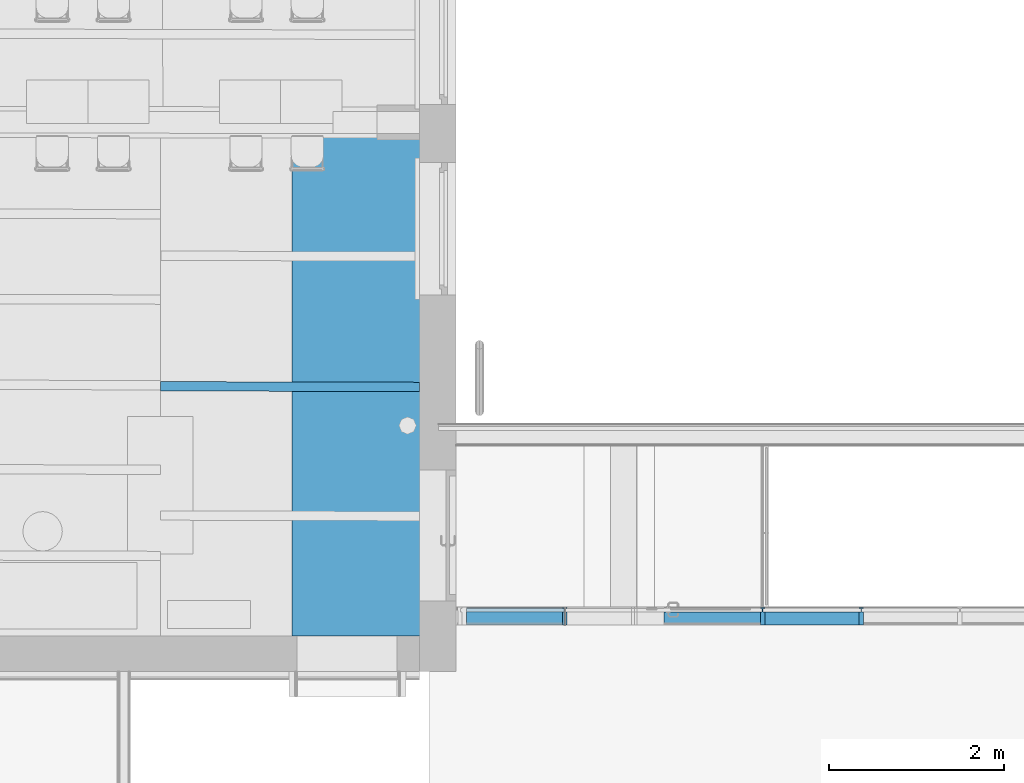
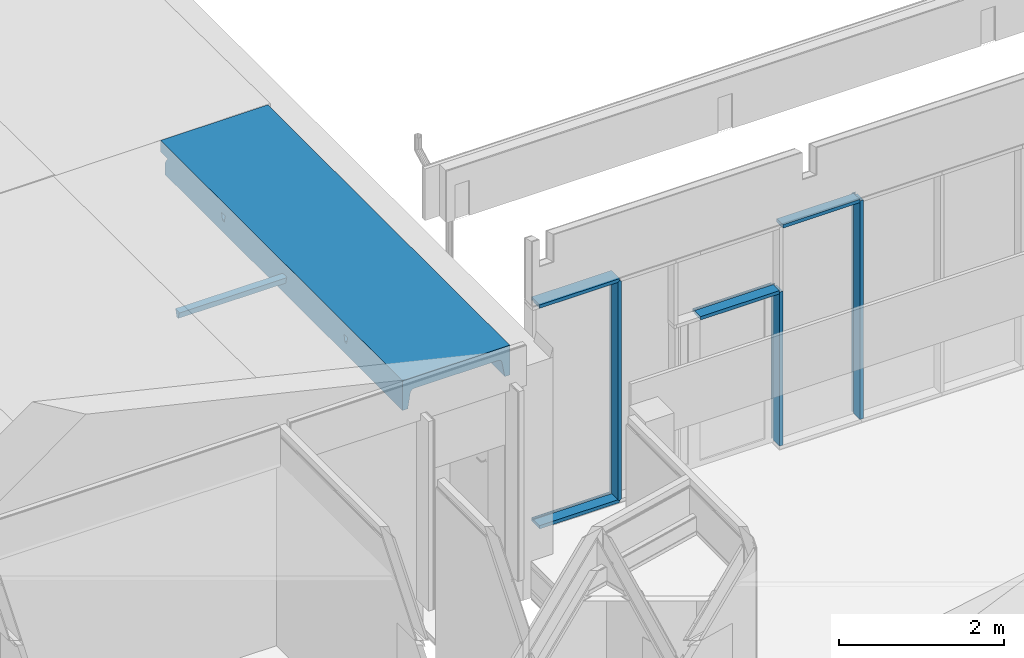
# One storey, part 28 of 153: 7 members, 2 beams, 1 element without a shape of its own.
"""IFC2X3 building model written with IfcOpenShell, lengths in millimetres."""

from ifc_helpers import new_model, entity, si_unit, converted_unit, derived_unit, money_unit, direction, frame, origin_with_axes, place, context, subcontext, project, spatial, faceted_brep, material, type_object, element, aggregate, save


model = new_model("IFC2X3")

# Units and contexts
model_context = context("Model", 3, precision=0.01, world=origin_with_axes(), true_north=direction((0.0, 1.0)))
body_context = subcontext(model_context, "Body", "Model", "MODEL_VIEW")
ifc_project = project(units=[si_unit("LENGTHUNIT", "METRE", prefix="MILLI"), si_unit("AREAUNIT", "SQUARE_METRE"), si_unit("VOLUMEUNIT", "CUBIC_METRE"), converted_unit("PLANEANGLEUNIT", "DEGREE", entity("IfcPlaneAngleMeasure", 0.0174532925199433), si_unit("PLANEANGLEUNIT", "RADIAN"), dimensions=[0, 0, 0, 0, 0, 0, 0]), money_unit("EUR"), converted_unit("TIMEUNIT", "Year", entity("IfcTimeMeasure", 31557600.0), si_unit("TIMEUNIT", "SECOND"), dimensions=[0, 0, 1, 0, 0, 0, 0]), si_unit("MASSUNIT", "GRAM", prefix="KILO"), si_unit("THERMODYNAMICTEMPERATUREUNIT", "DEGREE_CELSIUS"), si_unit("LUMINOUSINTENSITYUNIT", "LUMEN"), si_unit("ENERGYUNIT", "JOULE", prefix="MEGA"), derived_unit("THERMALCONDUCTANCEUNIT", [(si_unit("POWERUNIT", "WATT"), 1), (si_unit("LENGTHUNIT", "METRE"), -1), (si_unit("THERMODYNAMICTEMPERATUREUNIT", "KELVIN"), -1)]), derived_unit("SPECIFICHEATCAPACITYUNIT", [(si_unit("ENERGYUNIT", "JOULE"), 1), (si_unit("MASSUNIT", "GRAM", prefix="KILO"), -1), (si_unit("THERMODYNAMICTEMPERATUREUNIT", "KELVIN"), -1)]), derived_unit("MASSDENSITYUNIT", [(si_unit("MASSUNIT", "GRAM", prefix="KILO"), 1), (si_unit("VOLUMEUNIT", "CUBIC_METRE"), -1)])], contexts=[model_context])

# Site, building, storey
site_placement = place(None, frame((0.0, 0.0, 8650.0), z_axis=(0.0, 0.0, 1.0), x_axis=(1.0, 0.0, 0.0)))
site = spatial("IfcSite", under=ifc_project, at=site_placement, Name="43301:001:0844", CompositionType="ELEMENT")
building_placement = place(site_placement, origin_with_axes())
building = spatial("IfcBuilding", under=site, at=building_placement, Name="Kuressaare Ametikooli tuulikute mehaanikute õppekorpus", CompositionType="ELEMENT")
storey_placement = place(building_placement, frame((0.0, 0.0, 4100.0), z_axis=(0.0, 0.0, 1.0), x_axis=(1.0, 0.0, 0.0)))
storey = spatial("IfcBuildingStorey", under=building, at=storey_placement, Name="2.korrus", CompositionType="ELEMENT", Elevation=4100.0)

# Curtain wall, members
curtain_wall_type = type_object("IfcCurtainWallType", Name="Curtain Wall Type", PredefinedType="NOTDEFINED")
curtain_wall_placement = place(storey_placement, frame((107592.1026822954, 26479.57374875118, 34.9999663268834), z_axis=(0.0, 0.0, 1.0), x_axis=(1.0, 0.0, 0.0)))
curtain_wall = element("IfcCurtainWall", 1, at=curtain_wall_placement, inside=storey, type_object=curtain_wall_type, Name="SKF-2.1,EI60")
ifc_material_1 = material(Name="Aluminium")
member_type_1 = type_object("IfcMemberType", Name="Boundary Frame 50 x 200", PredefinedType="NOTDEFINED")
member_1_placement = place(curtain_wall_placement, frame((-2705.896576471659, 0.0, 0.0), z_axis=(0.0, 0.0, 1.0), x_axis=(-1.0, 0.0, 0.0)))
member_1 = element("IfcMember", 2, at=member_1_placement, type_object=member_type_1, material=ifc_material_1, context=body_context, shape_type="Brep", body=[
    faceted_brep([(-4.999999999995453, 19.99999999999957, 3255.000041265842), (-4.999999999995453, -19.99999999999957, 3255.000041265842), (-25.00000000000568, -19.99999999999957, 3235.000316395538), (-25.00000000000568, -30.00000000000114, 3235.000316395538), (0.0, -30.00000000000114, 3259.999972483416), (0.0, 170.0000000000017, 3259.999972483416), (-25.00000000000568, 170.0000000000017, 3235.000316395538), (-25.00000000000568, 19.99999999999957, 3235.000316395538), (-4.999999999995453, 19.99999999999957, 4.999999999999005), (-4.999999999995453, -19.99999999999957, 4.999999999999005), (-25.00000000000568, -19.99999999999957, 25.00000000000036), (-25.00000000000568, -30.00000000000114, 25.00000000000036), (0.0, -30.00000000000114, 0.0), (25.00000000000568, -30.00000000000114, 25.00000000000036), (25.00000000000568, -30.00000000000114, 3234.999974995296), (25.00000000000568, -19.99999999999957, 3234.999974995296), (4.999999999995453, -19.99999999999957, 3254.999972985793), (4.999999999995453, 19.99999999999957, 3254.999972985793), (25.00000000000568, 19.99999999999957, 3234.999974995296), (25.00000000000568, 170.0000000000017, 3234.999974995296), (0.0, 170.0000000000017, 0.0), (-25.00000000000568, 170.0000000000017, 25.00000000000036), (25.00000000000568, 170.0000000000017, 25.00000000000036), (-25.00000000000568, 19.99999999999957, 25.00000000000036), (25.00000000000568, 19.99999999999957, 25.00000000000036), (4.999999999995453, 19.99999999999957, 4.999999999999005), (4.999999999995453, -19.99999999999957, 4.999999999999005), (25.00000000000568, -19.99999999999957, 25.00000000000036)], [[[0, 1, 2, 3, 4, 5, 6, 7]], [[0, 8, 9, 1]], [[1, 9, 10, 2]], [[10, 11, 3, 2]], [[12, 13, 14, 4, 3, 11]], [[5, 4, 14, 15, 16, 17, 18, 19]], [[20, 21, 6, 5, 19, 22]], [[7, 6, 21, 23]], [[7, 23, 8, 0]], [[9, 8, 23, 21, 20, 12, 11, 10]], [[13, 12, 20, 22, 24, 25, 26, 27]], [[27, 15, 14, 13]], [[15, 27, 26, 16]], [[17, 16, 26, 25]], [[18, 17, 25, 24]], [[18, 24, 22, 19]]]),
])
member_2_placement = place(curtain_wall_placement, frame((-1574.999999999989, 0.0, 2300.000005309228), z_axis=(1.0, 0.0, 1.248303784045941e-08), x_axis=(-1.248303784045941e-08, 0.0, 1.0)))
member_2 = element("IfcMember", 3, at=member_2_placement, type_object=member_type_1, material=ifc_material_1, context=body_context, shape_type="Brep", body=[
    faceted_brep([(-5.000013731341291, 19.99999999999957, 1099.999981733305), (-5.000013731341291, -19.99999999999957, 1099.999981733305), (-25.00001373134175, -19.99999999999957, 1099.999981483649), (-25.00001373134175, -30.00000000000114, 1099.999981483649), (24.99998626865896, -30.00000000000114, 1099.999982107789), (24.99998626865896, -19.99999999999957, 1099.999982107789), (4.999986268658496, -19.99999999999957, 1099.999981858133), (4.999986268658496, 19.99999999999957, 1099.999981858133), (24.99998626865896, 19.99999999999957, 1099.999982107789), (24.99998626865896, 170.0000000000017, 1099.999982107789), (-25.00001373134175, 170.0000000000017, 1099.999981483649), (-25.00001373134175, 19.99999999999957, 1099.999981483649), (-4.999999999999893, 19.99999999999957, -3.744844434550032e-07), (-4.999999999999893, -19.99999999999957, -3.744844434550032e-07), (-25.00000000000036, -19.99999999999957, -6.24140739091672e-07), (-25.00000000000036, -30.00000000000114, -6.24140739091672e-07), (25.00000000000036, -30.00000000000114, 0.0), (25.00000000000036, -19.99999999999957, 0.0), (4.999999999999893, -19.99999999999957, -2.496562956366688e-07), (4.999999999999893, 19.99999999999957, -2.496562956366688e-07), (25.00000000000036, 19.99999999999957, 0.0), (25.00000000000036, 170.0000000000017, 0.0), (-25.00000000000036, 170.0000000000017, -6.24140739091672e-07), (-25.00000000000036, 19.99999999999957, -6.24140739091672e-07)], [[[0, 1, 2, 3, 4, 5, 6, 7, 8, 9, 10, 11]], [[0, 12, 13, 1]], [[1, 13, 14, 2]], [[14, 15, 3, 2]], [[3, 15, 16, 4]], [[17, 5, 4, 16]], [[5, 17, 18, 6]], [[7, 6, 18, 19]], [[8, 7, 19, 20]], [[8, 20, 21, 9]], [[9, 21, 22, 10]], [[11, 10, 22, 23]], [[11, 23, 12, 0]], [[13, 12, 23, 22, 21, 20, 19, 18, 17, 16, 15, 14]]]),
])
member_3_placement = place(curtain_wall_placement, frame((-3824.999999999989, 0.0, 0.0), z_axis=(1.0, 0.0, 0.0), x_axis=(0.0, 0.0, 1.0)))
member_3 = element("IfcMember", 4, at=member_3_placement, type_object=member_type_1, material=ifc_material_1, context=body_context, shape_type="Brep", body=[
    faceted_brep([(4.999999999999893, 19.99999999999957, 1114.103423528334), (25.00000000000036, 19.99999999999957, 1094.103423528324), (25.00000000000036, 170.0000000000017, 1094.103423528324), (0.0, 170.0000000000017, 1119.10342352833), (0.0, -30.00000000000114, 1119.10342352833), (25.00000000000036, -30.00000000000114, 1094.103423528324), (25.00000000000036, -19.99999999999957, 1094.103423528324), (4.999999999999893, -19.99999999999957, 1114.103423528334), (4.999999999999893, 19.99999999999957, 0.0), (25.00000000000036, 19.99999999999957, 0.0), (25.00000000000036, 170.0000000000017, 0.0), (-25.00000000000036, 170.0000000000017, 1119.10342352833), (-25.00000000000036, 170.0000000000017, 0.0), (-25.00000000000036, -30.00000000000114, 1119.10342352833), (25.00000000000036, -30.00000000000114, 0.0), (-25.00000000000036, -30.00000000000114, 0.0), (25.00000000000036, -19.99999999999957, 0.0), (4.999999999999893, -19.99999999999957, 0.0)], [[[0, 1, 2, 3, 4, 5, 6, 7]], [[0, 8, 9, 1]], [[9, 10, 2, 1]], [[11, 3, 2, 10, 12]], [[4, 3, 11, 13]], [[14, 5, 4, 13, 15]], [[6, 5, 14, 16]], [[16, 17, 7, 6]], [[7, 17, 8, 0]], [[8, 17, 16, 14, 15, 12, 10, 9]], [[11, 12, 15, 13]]]),
])
member_4_placement = place(curtain_wall_placement, frame((-2705.896576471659, 0.0, 3259.999972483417), z_axis=(-0.999999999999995, 0.0, 1.004751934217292e-07), x_axis=(-1.004751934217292e-07, 0.0, -0.999999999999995)))
member_4 = element("IfcMember", 5, at=member_4_placement, type_object=member_type_1, material=ifc_material_1, context=body_context, shape_type="Brep", body=[
    faceted_brep([(5.000112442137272, 19.99999999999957, 1119.103467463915), (25.00011244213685, 19.99999999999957, 1119.103465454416), (25.00011244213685, 170.0000000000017, 1119.103465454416), (-24.99988755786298, 170.0000000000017, 1119.103470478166), (-24.99988755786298, -30.00000000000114, 1119.103470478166), (25.00011244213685, -30.00000000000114, 1119.103465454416), (25.00011244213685, -19.99999999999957, 1119.103465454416), (5.000112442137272, -19.99999999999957, 1119.103467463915), (5.000000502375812, 19.99999999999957, 4.999998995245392), (25.00000251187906, 19.99999999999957, 24.99999497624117), (25.00000251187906, 170.0000000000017, 24.99999497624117), (0.0, 170.0000000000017, 0.0), (-25.00000000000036, 170.0000000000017, 2.511868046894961e-06), (-25.00000000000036, -30.00000000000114, 2.511868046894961e-06), (0.0, -30.00000000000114, 0.0), (25.00000251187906, -30.00000000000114, 24.99999497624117), (25.00000251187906, -19.99999999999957, 24.99999497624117), (5.000000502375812, -19.99999999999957, 4.999998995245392)], [[[0, 1, 2, 3, 4, 5, 6, 7]], [[0, 8, 9, 1]], [[9, 10, 2, 1]], [[2, 10, 11, 12, 3]], [[3, 12, 13, 4]], [[13, 14, 15, 5, 4]], [[6, 5, 15, 16]], [[16, 17, 7, 6]], [[7, 17, 8, 0]], [[8, 17, 16, 15, 14, 11, 10, 9]], [[11, 14, 13, 12]]]),
])
member_type_2 = type_object("IfcMemberType", Name="Mullion Frame 50 x 200", PredefinedType="NOTDEFINED")
member_5_placement = place(curtain_wall_placement, frame((675.0000000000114, 0.0, 0.0), z_axis=(0.0, 0.0, 1.0), x_axis=(-1.0, 0.0, 0.0)))
member_5 = element("IfcMember", 6, at=member_5_placement, type_object=member_type_2, material=ifc_material_1, context=body_context, shape_type="Brep", body=[
    faceted_brep([(-4.999999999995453, 19.99999999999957, 3254.999978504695), (-4.999999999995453, -19.99999999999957, 3254.999978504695), (-25.00000000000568, -19.99999999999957, 3254.999978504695), (-25.00000000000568, -30.00000000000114, 3254.999978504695), (25.00000000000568, -30.00000000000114, 3254.999978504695), (25.00000000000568, -19.99999999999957, 3254.999978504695), (4.999999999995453, -19.99999999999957, 3254.999978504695), (4.999999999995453, 19.99999999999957, 3254.999978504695), (25.00000000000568, 19.99999999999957, 3254.999978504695), (25.00000000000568, 170.0000000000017, 3254.999978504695), (-25.00000000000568, 170.0000000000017, 3254.999978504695), (-25.00000000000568, 19.99999999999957, 3254.999978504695), (-4.999999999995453, 19.99999999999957, 24.99999999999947), (-4.999999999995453, -19.99999999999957, 24.99999999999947), (-25.00000000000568, -19.99999999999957, 24.99999999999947), (-25.00000000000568, -30.00000000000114, 24.99999999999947), (25.00000000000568, -30.00000000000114, 24.99999999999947), (25.00000000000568, -19.99999999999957, 24.99999999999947), (4.999999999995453, -19.99999999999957, 24.99999999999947), (4.999999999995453, 19.99999999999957, 24.99999999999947), (25.00000000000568, 19.99999999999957, 24.99999999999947), (25.00000000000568, 170.0000000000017, 24.99999999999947), (-25.00000000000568, 170.0000000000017, 24.99999999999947), (-25.00000000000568, 19.99999999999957, 24.99999999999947)], [[[0, 1, 2, 3, 4, 5, 6, 7, 8, 9, 10, 11]], [[0, 12, 13, 1]], [[1, 13, 14, 2]], [[14, 15, 3, 2]], [[4, 3, 15, 16]], [[17, 5, 4, 16]], [[5, 17, 18, 6]], [[7, 6, 18, 19]], [[8, 7, 19, 20]], [[8, 20, 21, 9]], [[10, 9, 21, 22]], [[11, 10, 22, 23]], [[11, 23, 12, 0]], [[13, 12, 23, 22, 21, 20, 19, 18, 17, 16, 15, 14]]]),
])
member_6_placement = place(curtain_wall_placement, frame((-449.9999999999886, 0.0, 0.0), z_axis=(0.0, 0.0, 1.0), x_axis=(-1.0, 0.0, 0.0)))
member_6 = element("IfcMember", 7, at=member_6_placement, type_object=member_type_2, material=ifc_material_1, context=body_context, shape_type="Brep", body=[
    faceted_brep([(-4.999999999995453, 19.99999999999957, 2300.000019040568), (-4.999999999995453, -19.99999999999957, 2300.000019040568), (-25.00000000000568, -19.99999999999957, 2300.000019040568), (-25.00000000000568, -30.00000000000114, 2300.000019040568), (25.00000000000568, -30.00000000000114, 2300.000019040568), (25.00000000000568, -19.99999999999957, 2300.000019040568), (4.999999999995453, -19.99999999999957, 2300.000019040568), (4.999999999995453, 19.99999999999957, 2300.000019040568), (25.00000000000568, 19.99999999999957, 2300.000019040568), (25.00000000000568, 170.0000000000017, 2300.000019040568), (-25.00000000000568, 170.0000000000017, 2300.000019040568), (-25.00000000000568, 19.99999999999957, 2300.000019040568), (-4.999999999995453, 19.99999999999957, 25.00000000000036), (-4.999999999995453, -19.99999999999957, 25.00000000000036), (-25.00000000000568, -19.99999999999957, 25.00000000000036), (-25.00000000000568, -30.00000000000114, 25.00000000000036), (25.00000000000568, -30.00000000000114, 25.00000000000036), (25.00000000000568, -19.99999999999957, 25.00000000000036), (4.999999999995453, -19.99999999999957, 25.00000000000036), (4.999999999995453, 19.99999999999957, 25.00000000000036), (25.00000000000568, 19.99999999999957, 25.00000000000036), (25.00000000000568, 170.0000000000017, 25.00000000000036), (-25.00000000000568, 170.0000000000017, 25.00000000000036), (-25.00000000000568, 19.99999999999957, 25.00000000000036)], [[[0, 1, 2, 3, 4, 5, 6, 7, 8, 9, 10, 11]], [[0, 12, 13, 1]], [[1, 13, 14, 2]], [[14, 15, 3, 2]], [[4, 3, 15, 16]], [[17, 5, 4, 16]], [[5, 17, 18, 6]], [[7, 6, 18, 19]], [[8, 7, 19, 20]], [[8, 20, 21, 9]], [[10, 9, 21, 22]], [[11, 10, 22, 23]], [[11, 23, 12, 0]], [[13, 12, 23, 22, 21, 20, 19, 18, 17, 16, 15, 14]]]),
])

# Beams
ifc_material_2 = material(Name="GENEERILINE - KONSTRUKTRIOON")
beam_type_1 = type_object("IfcBeamType", Name="Precast Double Tee 2 1500 x 440", PredefinedType="NOTDEFINED")
beam_1_placement = place(storey_placement, frame((102527.5122070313, 32038.65028336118, 2975.0), z_axis=(0.0, 0.0, 1.0), x_axis=(-1.0, 0.0, 0.0)))
element("IfcBeam", 8, at=beam_1_placement, inside=storey, type_object=beam_type_1, material=ifc_material_2, context=body_context, shape_type="Brep", body=[
    faceted_brep([(750.0, 0.0, -169.8235593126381), (750.0, 175.401518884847, -169.8235593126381), (750.0, 164.438955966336, -181.3564172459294), (750.0, 132.7664355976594, -222.3718680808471), (750.0, 107.1744107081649, -267.4325278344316), (750.0, 107.173888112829, -440.0001340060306), (750.0, 5855.581359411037, -440.0001340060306), (750.0, 5855.581359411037, 0.0), (750.0, 0.0, 0.0), (750.0, 1561.738452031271, -184.2365347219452), (750.0, 1540.998420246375, -271.8138152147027), (750.0, 1500.998277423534, -271.8138152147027), (750.0, 1480.25728386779, -184.236339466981), (750.0, 1475.682633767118, -175.4405967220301), (750.0, 1467.483824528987, -169.866336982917), (750.0, 1574.511957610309, -169.866336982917), (750.0, 1566.31308171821, -175.4406717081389), (750.0, 3029.465364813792, -271.8138152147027), (750.0, 2989.465221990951, -271.8138152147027), (750.0, 2968.724228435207, -184.236339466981), (750.0, 2964.149578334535, -175.4405967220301), (750.0, 2955.950769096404, -169.866336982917), (750.0, 3062.978902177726, -169.866336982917), (750.0, 3054.780026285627, -175.4406717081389), (750.0, 3050.205396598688, -184.2365347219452), (750.0, 4462.866137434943, -271.8138152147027), (750.0, 4442.125143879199, -184.236339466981), (750.0, 4437.550493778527, -175.4405967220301), (750.0, 4429.351684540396, -169.866336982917), (750.0, 4536.379817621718, -169.866336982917), (750.0, 4528.18094172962, -175.4406717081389), (750.0, 4523.606312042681, -184.2365347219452), (750.0, 4502.866280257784, -271.8138152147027), (584.2531439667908, 0.0, -169.8235593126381), (584.2531438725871, 175.6764914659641, -169.8235593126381), (604.310838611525, 172.1430669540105, -173.5057932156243), (617.269452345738, 164.6591547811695, -181.3564172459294), (640.3274701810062, 135.0669833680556, -219.6283094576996), (640.7591320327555, 132.9476652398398, -222.3718680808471), (621.7526411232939, 162.5543822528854, -184.072435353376), (634.3038197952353, 150.121909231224, -200.1453415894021), (647.8488175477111, 107.3438786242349, -267.4325278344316), (674.9999969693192, 107.2983124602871, -440.0001340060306), (674.9999969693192, 5855.581359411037, -440.0001340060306), (-631.90952567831, 5855.581359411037, -193.5336498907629), (-638.1842783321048, 5855.581359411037, -210.1386333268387), (-680.0000000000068, 5855.581359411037, -440.0001340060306), (-750.0, 5855.581359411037, -440.0001340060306), (-750.0, 5855.581359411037, 0.0), (640.3274701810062, 5855.581359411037, -219.6283094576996), (634.3038197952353, 5855.581359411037, -200.1453415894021), (621.7526411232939, 5855.581359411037, -184.072435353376), (604.310838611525, 5855.581359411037, -173.5057932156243), (584.2531439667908, 5855.581359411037, -169.8234995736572), (-586.8200850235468, 5855.581359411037, -169.8234995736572), (-604.4404036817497, 5855.581359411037, -171.9734684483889), (-620.1516209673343, 5855.581359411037, -180.2351660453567), (-750.0, 0.0, 0.0), (-750.0, 0.0, -440.0001340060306), (-699.9999999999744, 0.0, -440.0001340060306), (-699.9999999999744, 0.0, -169.8235593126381), (-586.8200850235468, 0.0, -169.8235593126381), (648.5381538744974, 1541.269556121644, -271.8138152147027), (621.8807847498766, 1562.080824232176, -184.2365347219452), (634.3038197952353, 1558.280106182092, -200.1453415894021), (640.3274701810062, 1553.650057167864, -219.6283094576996), (648.5381538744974, 1501.269413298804, -271.8138152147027), (640.3274701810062, 1488.932249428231, -219.6283094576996), (634.3038197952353, 1484.334190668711, -200.1453415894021), (621.8806322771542, 1480.599656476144, -184.236339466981), (621.7526411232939, 1480.514752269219, -184.072435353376), (607.5045173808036, 1476.063423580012, -175.4405967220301), (604.310838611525, 1473.226183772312, -173.5057932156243), (584.4864821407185, 1467.926125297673, -169.866336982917), (584.4864821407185, 1574.954258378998, -169.866336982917), (607.5046411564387, 1566.693871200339, -175.4406717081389), (604.310838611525, 1569.548275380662, -173.5057932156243), (621.7526411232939, 1562.166512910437, -184.072435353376), (648.5381538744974, 3029.736500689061, -271.8138152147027), (648.5381538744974, 2989.736357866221, -271.8138152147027), (640.3274701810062, 2977.399193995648, -219.6283094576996), (634.3038197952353, 2972.801135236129, -200.1453415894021), (621.88063227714, 2969.066601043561, -184.236339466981), (621.7526411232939, 2968.981696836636, -184.072435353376), (607.5045173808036, 2964.530368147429, -175.4405967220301), (604.310838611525, 2961.693128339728, -173.5057932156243), (584.4864821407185, 2956.39306986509, -169.866336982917), (584.4864821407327, 3063.421202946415, -169.866336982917), (604.310838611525, 3058.015219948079, -173.5057932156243), (607.5046411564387, 3055.160815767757, -175.4406717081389), (621.7526411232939, 3050.633457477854, -184.072435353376), (621.8807847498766, 3050.547768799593, -184.2365347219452), (634.3038197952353, 3046.74705074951, -200.1453415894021), (640.3274701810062, 3042.117001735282, -219.6283094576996), (640.3274701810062, 4450.80010943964, -219.6283094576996), (634.3038197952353, 4446.202050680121, -200.1453415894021), (621.88063227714, 4442.467516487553, -184.236339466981), (648.5381538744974, 4463.137273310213, -271.8138152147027), (621.7526411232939, 4442.382612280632, -184.072435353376), (607.5045173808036, 4437.931283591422, -175.4405967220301), (604.310838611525, 4435.094043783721, -173.5057932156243), (584.4864821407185, 4429.793985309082, -169.866336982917), (584.4864821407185, 4536.822118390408, -169.866336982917), (604.310838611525, 4531.416135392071, -173.5057932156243), (607.5046411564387, 4528.561731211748, -175.4406717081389), (621.7526411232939, 4524.034372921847, -184.072435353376), (621.8807847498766, 4523.948684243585, -184.2365347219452), (634.3038197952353, 4520.147966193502, -200.1453415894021), (640.3274701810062, 4515.517917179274, -219.6283094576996), (648.5381538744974, 4503.137416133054, -271.8138152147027), (-586.8200851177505, 177.6192916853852, -169.8235593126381), (-631.90952567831, 4525.097439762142, -193.5336498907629), (-638.1842783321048, 4521.181819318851, -210.1386333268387), (-649.4040442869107, 4506.605899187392, -271.8138152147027), (-649.4040442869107, 4466.605756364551, -271.8138152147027), (-638.1842783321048, 4451.969226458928, -210.1386333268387), (-638.1842783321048, 3047.780903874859, -210.1386333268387), (-649.4040442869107, 3033.204983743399, -271.8138152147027), (-649.4040442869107, 2993.204840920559, -271.8138152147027), (-638.1842783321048, 2978.568311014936, -210.1386333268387), (-638.1842783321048, 1559.313959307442, -210.1386333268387), (-649.4040442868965, 1544.738039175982, -271.8138152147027), (-649.4040442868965, 1504.737896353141, -271.8138152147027), (-638.1842783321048, 1490.101366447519, -210.1386333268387), (-638.1842783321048, 144.5160411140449, -210.1386333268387), (-640.4097120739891, 135.0731131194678, -222.3718680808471), (-648.6070134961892, 109.4946874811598, -267.4325278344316), (-680.0000000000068, 109.5462455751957, -440.0001340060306), (-699.818209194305, 109.5791238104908, -440.0001340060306), (-587.1706744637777, 4432.924997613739, -169.866336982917), (-587.1706744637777, 4539.953130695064, -169.866336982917), (-604.4404036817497, 4536.900056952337, -171.9734684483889), (-604.4404036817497, 175.6049266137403, -171.9734684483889), (-604.4404036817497, 1474.202527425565, -171.9734684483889), (-587.1706744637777, 1471.057137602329, -169.866336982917), (-587.1706744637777, 1578.085270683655, -169.866336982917), (-604.4404036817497, 1575.032196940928, -171.9734684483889), (-604.4404036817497, 2962.669471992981, -171.9734684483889), (-587.1706744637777, 2959.524082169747, -169.866336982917), (-587.1706744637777, 3066.552215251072, -169.866336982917), (-604.4404036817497, 3063.499141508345, -171.9734684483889), (-604.4404036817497, 4436.070387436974, -171.9734684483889), (-611.0339618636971, 4531.818024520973, -175.4406717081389), (-620.1516209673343, 4529.348826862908, -180.2351660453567), (-623.6894461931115, 4527.277214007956, -184.2365347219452), (-699.8182083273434, 109.5796464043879, -267.4325278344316), (-699.7757514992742, 135.1716008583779, -222.3718680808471), (-699.7232072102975, 166.8440340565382, -181.3564172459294), (-699.7050204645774, 177.8065668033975, -169.8235593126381), (-699.9465530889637, 4506.740963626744, -271.8138152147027), (-699.891130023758, 4527.480847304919, -184.2365347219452), (-700.0534444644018, 4466.741106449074, -271.8138152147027), (-631.90952567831, 4448.019896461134, -193.5336498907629), (-700.1088700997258, 4446.000261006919, -184.236339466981), (-623.6892735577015, 4445.79604538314, -184.236339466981), (-631.9095256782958, 3051.696524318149, -193.5336498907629), (-699.8911300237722, 3054.079931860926, -184.2365347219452), (-699.9465530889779, 3033.340048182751, -271.8138152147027), (-623.6894461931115, 3053.876298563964, -184.2365347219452), (-700.053444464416, 2993.340191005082, -271.8138152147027), (-623.6892735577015, 2972.395129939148, -184.236339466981), (-631.9095256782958, 2974.618981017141, -193.5336498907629), (-700.10887009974, 2972.599345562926, -184.236339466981), (-631.9095256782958, 1563.229579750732, -193.5336498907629), (-623.6894461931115, 1565.409353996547, -184.2365347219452), (-703.8687227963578, 1565.623616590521, -184.2365347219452), (-703.9241458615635, 1544.883732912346, -271.8138152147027), (-704.0310372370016, 1504.883875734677, -271.8138152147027), (-704.0864628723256, 1484.143030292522, -184.236339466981), (-623.6892735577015, 1483.928185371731, -184.236339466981), (-631.9095256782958, 1486.152036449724, -193.5336498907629), (-631.9095256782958, 157.3281571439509, -193.5336498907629), (-621.1429794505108, 166.7136701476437, -181.3564172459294), (-699.8569957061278, 4540.254261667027, -169.866336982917), (-700.1430042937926, 4433.226892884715, -169.866336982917), (-699.8789053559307, 4532.055444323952, -175.4406717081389), (-620.1516209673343, 167.7778312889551, -180.2351660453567), (-620.1516209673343, 1481.837728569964, -180.2351660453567), (-611.0338192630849, 1479.3197161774, -175.4405967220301), (-704.0986875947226, 1479.568412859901, -175.4405967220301), (-704.1205970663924, 1471.369662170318, -169.866336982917), (-703.8345884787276, 1578.39703095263, -169.866336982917), (-703.8564981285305, 1570.198213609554, -175.4406717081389), (-611.0339618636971, 1569.950164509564, -175.4406717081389), (-620.1516209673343, 1567.480966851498, -180.2351660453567), (-620.1516209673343, 2970.304673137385, -180.2351660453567), (-611.0338192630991, 2967.786660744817, -175.4405967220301), (-700.1430042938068, 2959.825977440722, -169.866336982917), (-700.121094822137, 2968.024728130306, -175.4405967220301), (-699.856995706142, 3066.853346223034, -169.866336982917), (-699.8789053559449, 3058.654528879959, -175.4406717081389), (-611.0339618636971, 3058.417109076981, -175.4406717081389), (-620.1516209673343, 4443.705588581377, -180.2351660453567), (-611.0338192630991, 4441.18757618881, -175.4405967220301), (-620.1516209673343, 3055.947911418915, -180.2351660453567), (-700.1210948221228, 4441.425643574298, -175.4405967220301)], [[[0, 1, 2, 3, 4, 5, 6, 7, 8], [9, 10, 11, 12, 13, 14, 15, 16], [17, 18, 19, 20, 21, 22, 23, 24], [25, 26, 27, 28, 29, 30, 31, 32]], [[0, 33, 34, 1]], [[35, 36, 2, 1, 34]], [[37, 38, 3, 2, 36, 39, 40]], [[38, 41, 4, 3]], [[41, 42, 5, 4]], [[5, 42, 43, 6]], [[44, 45, 46, 47, 48, 7, 6, 43, 49, 50, 51, 52, 53, 54, 55, 56]], [[8, 7, 48, 57]], [[8, 57, 58, 59, 60, 61, 33, 0]], [[62, 10, 9, 63, 64, 65]], [[66, 11, 10, 62]], [[11, 66, 67, 68, 69, 12]], [[13, 12, 69, 70, 71]], [[14, 13, 71, 72, 73]], [[74, 15, 14, 73]], [[75, 16, 15, 74, 76]], [[63, 9, 16, 75, 77]], [[18, 17, 78, 79]], [[79, 80, 81, 82, 19, 18]], [[19, 82, 83, 84, 20]], [[20, 84, 85, 86, 21]], [[22, 21, 86, 87]], [[23, 22, 87, 88, 89]], [[24, 23, 89, 90, 91]], [[17, 24, 91, 92, 93, 78]], [[94, 95, 96, 26, 25, 97]], [[96, 98, 99, 27, 26]], [[99, 100, 101, 28, 27]], [[28, 101, 102, 29]], [[29, 102, 103, 104, 30]], [[30, 104, 105, 106, 31]], [[31, 106, 107, 108, 109, 32]], [[32, 109, 97, 25]], [[54, 53, 34, 33, 61, 110]], [[36, 35, 72, 71, 70, 39]], [[52, 103, 102, 101, 100, 88, 87, 86, 85, 76, 74, 73, 72, 35, 34, 53]], [[97, 109, 108, 49, 43, 42, 41, 38, 37, 67, 66, 62, 65, 80, 79, 78, 93, 94]], [[40, 39, 70, 69, 68]], [[67, 37, 40, 68]], [[44, 111, 112, 45]], [[45, 112, 113, 114, 115, 116, 117, 118, 119, 120, 121, 122, 123, 124, 125, 126, 127, 46]], [[58, 47, 46, 127, 128, 59]], [[57, 48, 47, 58]], [[49, 108, 107, 50]], [[107, 106, 105, 51, 50]], [[105, 104, 103, 52, 51]], [[129, 130, 131, 55, 54, 110, 132, 133, 134, 135, 136, 137, 138, 139, 140, 141]], [[131, 142, 143, 56, 55]], [[143, 144, 111, 44, 56]], [[145, 146, 147, 148, 60, 59, 128]], [[61, 60, 148, 110]], [[77, 83, 82, 81, 64, 63]], [[65, 64, 81, 80]], [[76, 85, 84, 83, 77, 75]], [[100, 99, 98, 90, 89, 88]], [[98, 96, 95, 92, 91, 90]], [[92, 95, 94, 93]], [[149, 113, 112, 111, 144, 150]], [[151, 114, 113, 149]], [[152, 115, 114, 151, 153, 154]], [[116, 115, 152, 155]], [[156, 157, 117, 116, 155, 158]], [[157, 159, 118, 117]], [[160, 161, 119, 118, 159, 162]], [[163, 120, 119, 161]], [[164, 165, 166, 121, 120, 163]], [[121, 166, 167, 122]], [[168, 169, 170, 123, 122, 167]], [[170, 171, 124, 123]], [[171, 172, 147, 146, 125, 124]], [[126, 125, 146, 145]], [[128, 127, 126, 145]], [[173, 130, 129, 174]], [[175, 142, 131, 130, 173]], [[132, 110, 148, 147, 172, 176]], [[132, 176, 177, 178, 133]], [[179, 180, 134, 133, 178]], [[134, 180, 181, 135]], [[135, 181, 182, 183, 136]], [[184, 185, 186, 137, 136, 183]], [[187, 138, 137, 186, 188]], [[187, 189, 139, 138]], [[189, 190, 191, 140, 139]], [[192, 193, 141, 140, 191, 194]], [[129, 141, 193, 195, 174]], [[150, 144, 143, 142, 175]], [[150, 175, 173, 174, 195, 153, 151, 149]], [[193, 192, 154, 153, 195]], [[152, 154, 192, 194, 158, 155]], [[157, 156, 190, 189, 187, 188, 162, 159]], [[190, 156, 158, 194, 191]], [[163, 161, 160, 185, 184, 164]], [[188, 186, 185, 160, 162]], [[183, 182, 165, 164, 184]], [[167, 166, 165, 182, 181, 180, 179, 168]], [[168, 179, 178, 177, 169]], [[172, 171, 170, 169, 177, 176]]]),
])
beam_type_2 = type_object("IfcBeamType", Name="Precast Single Tee 2 107 x 102", PredefinedType="NOTDEFINED")
beam_2_placement = place(storey_placement, frame((100277.5122070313, 29033.1938886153, 2805.133663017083), z_axis=(0.0, 0.0, 1.0), x_axis=(-0.002672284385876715, -0.9999964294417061, 0.0)))
element("IfcBeam", 9, at=beam_2_placement, inside=storey, type_object=beam_type_2, material=ifc_material_2, context=body_context, shape_type="Brep", body=[
    faceted_brep([(45.31502884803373, 0.0, -5.574334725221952), (45.31502884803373, 2950.010533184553, -5.574334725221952), (53.51387546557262, 2950.010533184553, 0.0), (53.51387546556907, 0.0, 0.0), (40.74041549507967, 0.0, -14.37019773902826), (40.74041549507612, 2950.010533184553, -14.37019773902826), (20.00045776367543, 2950.010533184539, -101.9474782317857), (-19.99954223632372, 2950.010533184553, -101.9474782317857), (-40.7404617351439, 2950.010533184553, -14.37000248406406), (-45.31509550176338, 2950.010533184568, -5.574259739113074), (-53.51387546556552, 2950.010533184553, 0.0), (-53.51387546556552, 0.0, 0.0), (-45.31509550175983, 0.0, -5.574259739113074), (-40.7404617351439, 0.0, -14.37000248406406), (-19.99954223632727, 0.0, -101.9474782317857), (20.00045776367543, 0.0, -101.9474782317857)], [[[0, 1, 2, 3]], [[4, 5, 1, 0]], [[2, 1, 5, 6, 7, 8, 9, 10]], [[3, 2, 10, 11]], [[4, 0, 3, 11, 12, 13, 14, 15]], [[15, 6, 5, 4]], [[14, 7, 6, 15]], [[13, 8, 7, 14]], [[12, 9, 8, 13]], [[11, 10, 9, 12]]]),
])

# Member
member_type_3 = type_object("IfcMemberType", Name="Transom Frame 50 x 150", PredefinedType="NOTDEFINED")
member_7_placement = place(curtain_wall_placement, frame((-449.9999999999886, 0.0, 3254.999978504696), z_axis=(1.0, 0.0, 0.0), x_axis=(0.0, 0.0, 1.0)))
member_7 = element("IfcMember", 10, at=member_7_placement, type_object=member_type_3, material=ifc_material_1, context=body_context, shape_type="Brep", body=[
    faceted_brep([(25.00000000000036, 19.99999999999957, 25.00000000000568), (25.00000000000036, 170.0000000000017, 25.00000000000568), (25.00000000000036, 170.0000000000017, 1099.999999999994), (25.00000000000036, 19.99999999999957, 1099.999999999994), (-25.00000000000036, 19.99999999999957, 25.00000000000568), (-25.00000000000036, 170.0000000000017, 25.00000000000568), (-25.00000000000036, 170.0000000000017, 1099.999999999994), (-25.00000000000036, 19.99999999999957, 1099.999999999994)], [[[0, 1, 2, 3]], [[1, 0, 4, 5]], [[1, 5, 6, 2]], [[2, 6, 7, 3]], [[4, 0, 3, 7]], [[5, 4, 7, 6]]]),
])

aggregate(curtain_wall, [member_7, member_5, member_1, member_2, member_6, member_3, member_4])

save(model, "model.ifc")
